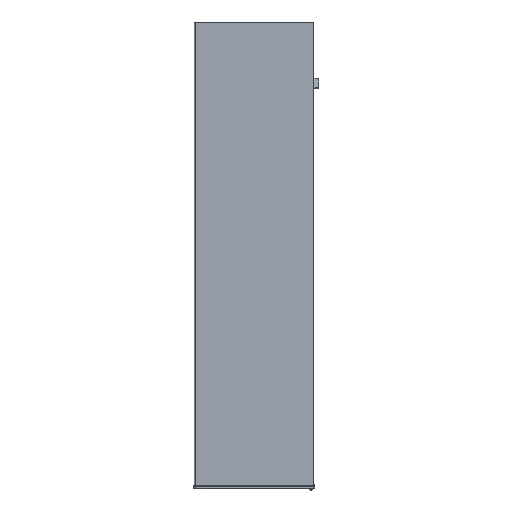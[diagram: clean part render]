
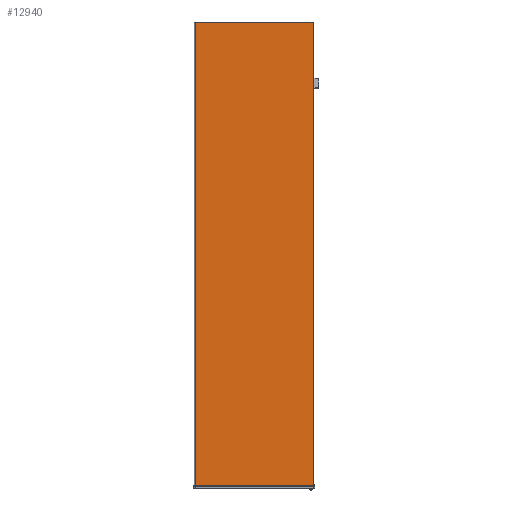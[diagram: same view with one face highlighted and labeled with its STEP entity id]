
A CAD part, left-side view. The second image highlights one B-rep face of the part: STEP entity #12940.
In plain terms, the highlighted planar face has unit normal (-1, 0, 0).
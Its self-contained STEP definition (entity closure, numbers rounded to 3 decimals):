
#446 = ORIENTED_EDGE ( 'NONE', *, *, #7113, .F. ) ;
#589 = LINE ( 'NONE', #6403, #3157 ) ;
#1334 = DIRECTION ( 'NONE',  ( -1., 0., 0. ) ) ;
#1362 = DIRECTION ( 'NONE',  ( 0., 0., 1. ) ) ;
#1777 = CARTESIAN_POINT ( 'NONE',  ( -12.5, 93.8, -462.8 ) ) ;
#2296 = CARTESIAN_POINT ( 'NONE',  ( -12.5, 55.8, -462.8 ) ) ;
#2350 = ORIENTED_EDGE ( 'NONE', *, *, #7641, .T. ) ;
#2389 = CARTESIAN_POINT ( 'NONE',  ( -12.5, 56.8, -449. ) ) ;
#2639 = VECTOR ( 'NONE', #11803, 1000. ) ;
#2670 = VERTEX_POINT ( 'NONE', #10826 ) ;
#3157 = VECTOR ( 'NONE', #7508, 1000. ) ;
#3323 = VECTOR ( 'NONE', #5555, 1000. ) ;
#3560 = AXIS2_PLACEMENT_3D ( 'NONE', #2389, #1334, #9054 ) ;
#3823 = VERTEX_POINT ( 'NONE', #4824 ) ;
#3943 = ORIENTED_EDGE ( 'NONE', *, *, #11102, .F. ) ;
#4824 = CARTESIAN_POINT ( 'NONE',  ( -12.5, -30.66, 25. ) ) ;
#5171 = CARTESIAN_POINT ( 'NONE',  ( -12.5, 56.8, 25. ) ) ;
#5280 = CARTESIAN_POINT ( 'NONE',  ( -12.5, 93.8, 25. ) ) ;
#5555 = DIRECTION ( 'NONE',  ( 0., 1., 0. ) ) ;
#5562 = LINE ( 'NONE', #5171, #2639 ) ;
#5710 = PLANE ( 'NONE',  #3560 ) ;
#6403 = CARTESIAN_POINT ( 'NONE',  ( -12.5, 93.8, -449. ) ) ;
#6451 = EDGE_CURVE ( 'NONE', #10032, #10529, #589, .T. ) ;
#6609 = LINE ( 'NONE', #2296, #3323 ) ;
#7113 = EDGE_CURVE ( 'NONE', #2670, #10529, #6609, .T. ) ;
#7508 = DIRECTION ( 'NONE',  ( 0., 0., -1. ) ) ;
#7641 = EDGE_CURVE ( 'NONE', #2670, #3823, #10703, .T. ) ;
#7762 = VECTOR ( 'NONE', #1362, 1000. ) ;
#9054 = DIRECTION ( 'NONE',  ( 0., -1., 0. ) ) ;
#9853 = FACE_OUTER_BOUND ( 'NONE', #11399, .T. ) ;
#10032 = VERTEX_POINT ( 'NONE', #5280 ) ;
#10148 = CARTESIAN_POINT ( 'NONE',  ( -12.5, -30.66, -449. ) ) ;
#10529 = VERTEX_POINT ( 'NONE', #1777 ) ;
#10703 = LINE ( 'NONE', #10148, #7762 ) ;
#10826 = CARTESIAN_POINT ( 'NONE',  ( -12.5, -30.66, -462.8 ) ) ;
#11102 = EDGE_CURVE ( 'NONE', #10032, #3823, #5562, .T. ) ;
#11399 = EDGE_LOOP ( 'NONE', ( #2350, #3943, #12171, #446 ) ) ;
#11803 = DIRECTION ( 'NONE',  ( 0., -1., 0. ) ) ;
#12171 = ORIENTED_EDGE ( 'NONE', *, *, #6451, .T. ) ;
#12940 = ADVANCED_FACE ( 'NONE', ( #9853 ), #5710, .T. ) ;
